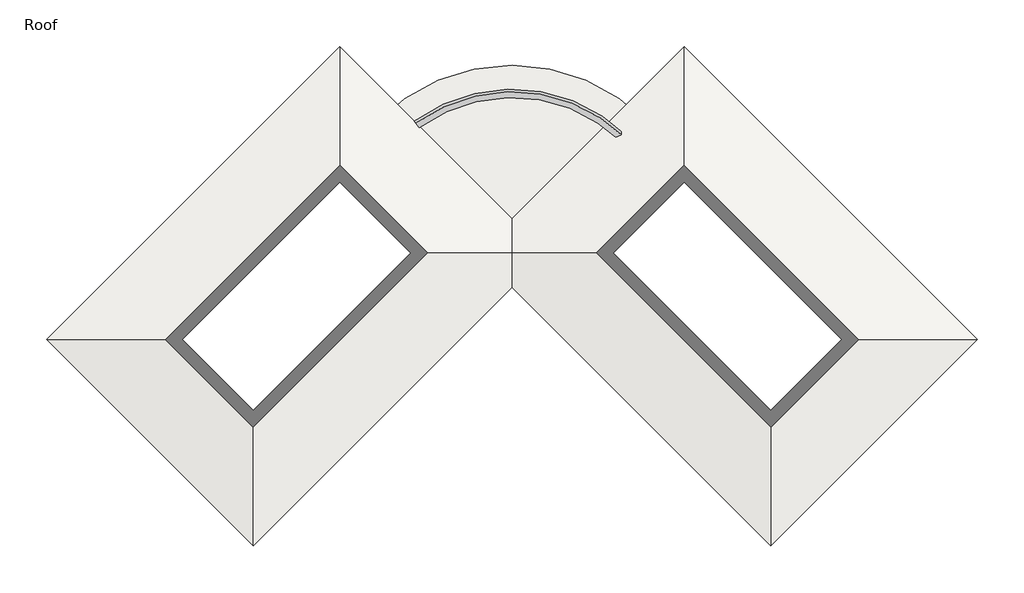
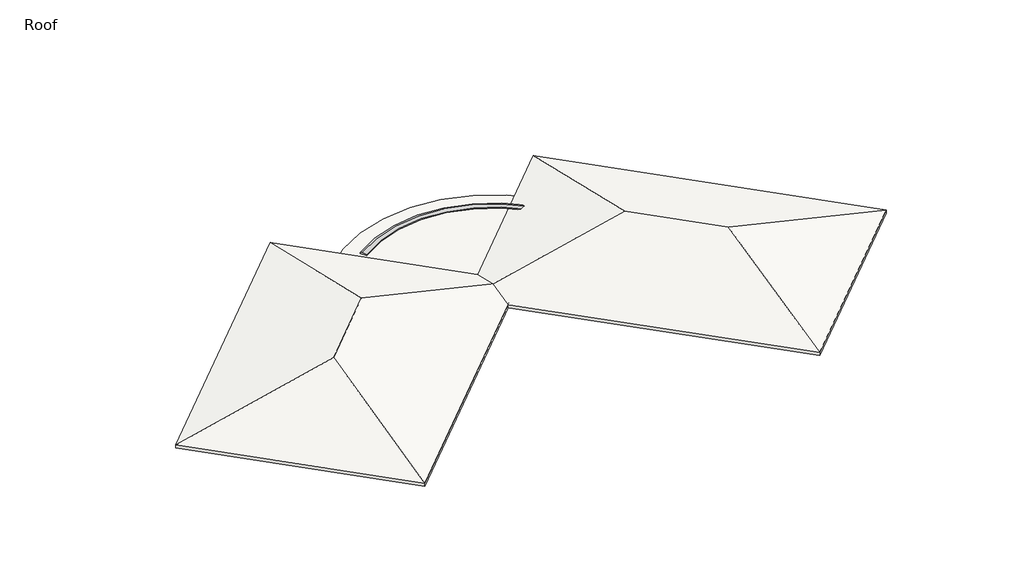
# One storey: 7 proxies, 3 roofs.
"""IFC4 building model written with IfcOpenShell, lengths in millimetres."""

import ifcopenshell
import ifcopenshell.guid

model = None  # the IFC model being written
_history = None  # IfcOwnerHistory: only IFC2X3 demands one
_inside = {}  # id of a spatial element -> (the spatial element, [elements in it])
_under = {}  # id of a project, library or spatial element -> (it, [spatial elements below it])
_declared = {}  # id of a project -> (the project, [libraries it declares])
_typed = {}  # id of a type object -> (the type object, [elements of that type])
_made_of = {}  # id of a material, layer set ... -> (it, [elements and type objects made of it])


def new_model(schema):
    """Start an empty IFC model of exactly this schema.

    Asked for "IFC4X3", IfcOpenShell would pick the latest addendum, in which some entities
    have other attributes; the version numbers below select the first issue.
    IFC2X3 requires an IfcOwnerHistory on every rooted entity: one is made here for all.
    """
    global model, _history
    if schema == "IFC4X3":
        model = ifcopenshell.file(schema_version=(4, 3, 0, 0))
    else:
        model = ifcopenshell.file(schema=schema)
    _inside.clear()
    _under.clear()
    _declared.clear()
    _typed.clear()
    _made_of.clear()
    _history = None
    if model.schema == "IFC2X3":
        org = make("IfcOrganization", Name="unknown")
        user = make(
            "IfcPersonAndOrganization",
            ThePerson=make("IfcPerson", FamilyName="unknown"),
            TheOrganization=org,
        )
        app = make(
            "IfcApplication",
            ApplicationDeveloper=org,
            Version="unknown",
            ApplicationFullName="unknown",
            ApplicationIdentifier="unknown",
        )
        _history = make(
            "IfcOwnerHistory",
            OwningUser=user,
            OwningApplication=app,
            ChangeAction="ADDED",
            CreationDate=0,
        )
    return model


def make(cls, **values):
    """One entity of the class cls with the attributes given. An attribute that is None is left unset."""
    return model.create_entity(
        cls, **{name: value for name, value in values.items() if value is not None}
    )


def rooted(cls, **values):
    """An entity with a GlobalId (a new one), such as an element, a storey or a relation."""
    return make(cls, GlobalId=ifcopenshell.guid.new(), OwnerHistory=_history, **values)


def si_unit(unit_type, name, prefix=None):
    """IfcSIUnit, for example si_unit("LENGTHUNIT", "METRE", prefix="MILLI")."""
    return make("IfcSIUnit", UnitType=unit_type, Prefix=prefix, Name=name)


def assignment(units):
    """IfcUnitAssignment: the units of a project."""
    return None if units is None else make("IfcUnitAssignment", Units=units)


def point(xyz):
    """IfcCartesianPoint."""
    return None if xyz is None else make("IfcCartesianPoint", Coordinates=xyz)


def direction(xyz):
    """IfcDirection."""
    return None if xyz is None else make("IfcDirection", DirectionRatios=xyz)


def frame(location, z_axis=None, x_axis=None):
    """IfcAxis2Placement3D, a coordinate frame: its origin and axes. An axis left out is left unset."""
    return make(
        "IfcAxis2Placement3D",
        Location=point(location),
        Axis=direction(z_axis),
        RefDirection=direction(x_axis),
    )


def frame_2d(location, x_axis=None):
    """IfcAxis2Placement2D, a coordinate frame in the plane: its origin and x axis."""
    return make(
        "IfcAxis2Placement2D", Location=point(location), RefDirection=direction(x_axis)
    )


def origin():
    """The frame at (0, 0, 0) with its axes left unset."""
    return frame((0.0, 0.0, 0.0))


def place(relative_to, where):
    """IfcLocalPlacement: puts the frame where relative to a parent placement (None: the world)."""
    return make(
        "IfcLocalPlacement", PlacementRelTo=relative_to, RelativePlacement=where
    )


def context(
    kind, dimensions, precision=None, world=None, true_north=None, identifier=None
):
    """IfcGeometricRepresentationContext, for example the 3D "Model" context."""
    return make(
        "IfcGeometricRepresentationContext",
        ContextIdentifier=identifier,
        ContextType=kind,
        CoordinateSpaceDimension=dimensions,
        Precision=precision,
        WorldCoordinateSystem=world,
        TrueNorth=true_north,
    )


def project(units=None, contexts=None):
    """IfcProject with its units and contexts."""
    return rooted(
        "IfcProject",
        Name="project",
        RepresentationContexts=contexts,
        UnitsInContext=assignment(units),
    )


def spatial(cls, under=None, at=None, **own):
    """A site, building, storey or space (cls), placed at a placement, below another one or the project."""
    s = rooted(cls, ObjectPlacement=at, **own)
    if under is not None:
        _under.setdefault(under.id(), (under, []))[1].append(s)
    return s


def polyline(points):
    """IfcPolyline through the points."""
    return make("IfcPolyline", Points=[point(p) for p in points])


def circle_curve(where, radius):
    """IfcCircle in the frame where."""
    return make("IfcCircle", Position=where, Radius=radius)


def trimmed(basis, trim1, trim2, sense, master):
    """IfcTrimmedCurve: the piece of a basis curve between two trims."""
    return make(
        "IfcTrimmedCurve",
        BasisCurve=basis,
        Trim1=trim1,
        Trim2=trim2,
        SenseAgreement=sense,
        MasterRepresentation=master,
    )


def segment(curve, same_sense, transition):
    """IfcCompositeCurveSegment."""
    return make(
        "IfcCompositeCurveSegment",
        Transition=transition,
        SameSense=same_sense,
        ParentCurve=curve,
    )


def composite_curve(segments, self_intersect=None):
    """IfcCompositeCurve: segments joined end to end."""
    return make("IfcCompositeCurve", Segments=segments, SelfIntersect=self_intersect)


def outline(outer, holes=None, kind="AREA"):
    """IfcArbitraryClosedProfileDef: a profile drawn as a closed curve; with holes, ...WithVoids."""
    if holes is None:
        return make("IfcArbitraryClosedProfileDef", ProfileType=kind, OuterCurve=outer)
    return make(
        "IfcArbitraryProfileDefWithVoids",
        ProfileType=kind,
        OuterCurve=outer,
        InnerCurves=holes,
    )


def extrude(swept, where, along, depth):
    """IfcExtrudedAreaSolid: the profile swept, set in the frame where, extruded along a direction by depth."""
    return make(
        "IfcExtrudedAreaSolid",
        SweptArea=swept,
        Position=where,
        ExtrudedDirection=direction(along),
        Depth=depth,
    )


def faces_of(points, faces, orient=None, outer=None):
    """IfcFace entities. A face is a list of loops; a loop is a list of indices into points, from 0.

    orient and outer hold one flag for each loop. By default every Orientation is true, the
    first loop of a face is its IfcFaceOuterBound and the others are IfcFaceBound.
    """
    made = []
    for i, loops in enumerate(faces):
        bounds = []
        for j, loop in enumerate(loops):
            is_outer = j == 0 if outer is None else outer[i][j]
            bounds.append(
                make(
                    "IfcFaceOuterBound" if is_outer else "IfcFaceBound",
                    Bound=make("IfcPolyLoop", Polygon=[points[k] for k in loop]),
                    Orientation=True if orient is None else orient[i][j],
                )
            )
        made.append(make("IfcFace", Bounds=bounds))
    return made


def faceted_brep(points, faces, orient=None, outer=None, voids=None):
    """IfcFacetedBrep: a solid bounded by flat faces; with voids (closed shells), ...WithVoids."""
    shared = [point(p) for p in points]
    hull = make("IfcClosedShell", CfsFaces=faces_of(shared, faces, orient, outer))
    if voids is None:
        return make("IfcFacetedBrep", Outer=hull)
    return make(
        "IfcFacetedBrepWithVoids",
        Outer=hull,
        Voids=[
            make(cls, CfsFaces=faces_of(shared, fs, o, b)) for cls, fs, o, b in voids
        ],
    )


def shape(context_of_items, identifier, shape_type, items):
    """IfcShapeRepresentation: the items that make up one representation, for example the "Body"."""
    return make(
        "IfcShapeRepresentation",
        ContextOfItems=context_of_items,
        RepresentationIdentifier=identifier,
        RepresentationType=shape_type,
        Items=items,
    )


def made_of(thing, what):
    """Note that an element or type object is made of a material, layer set ...; save() writes the relation."""
    if what is not None:
        _made_of.setdefault(what.id(), (what, []))[1].append(thing)
    return thing


def element(
    cls,
    number,
    at=None,
    inside=None,
    cuts=None,
    type_object=None,
    material=None,
    context=None,
    identifier="Body",
    shape_type=None,
    held_by="IfcProductDefinitionShape",
    body=None,
    shapes=None,
    **own,
):
    """One element of the class cls, such as IfcWall. Its Tag is "e" and its number.

    at: its placement. inside: the storey or other place that contains it. cuts: it is an
    opening in that element (IfcRelVoidsElement). A single representation is given by context,
    identifier, shape_type and body (its items); several are given by shapes. held_by: the class
    of the entity that holds the representations. save() writes the other relations.
    """
    e = rooted(cls, Tag="e%d" % number, ObjectPlacement=at, **own)
    if body is not None:
        shapes = [shape(context, identifier, shape_type, body)]
    if shapes is not None:
        e.Representation = make(held_by, Representations=shapes)
    if inside is not None:
        _inside.setdefault(inside.id(), (inside, []))[1].append(e)
    if cuts is not None:
        rooted(
            "IfcRelVoidsElement", RelatingBuildingElement=cuts, RelatedOpeningElement=e
        )
    if type_object is not None:
        _typed.setdefault(type_object.id(), (type_object, []))[1].append(e)
    return made_of(e, material)


def aggregate(whole, parts):
    """IfcRelAggregates: a whole, such as a stair, and the parts it consists of."""
    return rooted("IfcRelAggregates", RelatingObject=whole, RelatedObjects=parts)


def save(model, path):
    """Write the relations noted so far, then the file.

    IfcRelAggregates (storeys below a building ...), IfcRelContainedInSpatialStructure (elements
    in a storey), IfcRelDefinesByType, IfcRelAssociatesMaterial and IfcRelDeclares: one each for
    every whole, place, type object, material and project.
    """
    for whole, parts in _under.values():
        aggregate(whole, parts)
    for where, things in _inside.values():
        rooted(
            "IfcRelContainedInSpatialStructure",
            RelatedElements=things,
            RelatingStructure=where,
        )
    for kind, things in _typed.values():
        rooted("IfcRelDefinesByType", RelatedObjects=things, RelatingType=kind)
    for what, things in _made_of.values():
        rooted("IfcRelAssociatesMaterial", RelatedObjects=things, RelatingMaterial=what)
    for by, libraries in _declared.values():
        rooted("IfcRelDeclares", RelatingContext=by, RelatedDefinitions=libraries)
    model.write(path)


def plane_surface(at):
    """IfcPlane: the flat surface through the origin of the frame at, square to its z axis."""
    return make("IfcPlane", Position=at)


def cylinder_surface(at, radius):
    """IfcCylindricalSurface: all points at the distance radius from the z axis of the frame at."""
    return make("IfcCylindricalSurface", Position=at, Radius=radius)


def revolved_surface(curve, axis_point, axis_direction):
    """IfcSurfaceOfRevolution: the curve turned about the line through axis_point along axis_direction."""
    return make(
        "IfcSurfaceOfRevolution",
        SweptCurve=make("IfcArbitraryOpenProfileDef", ProfileType="CURVE", Curve=curve),
        AxisPosition=make("IfcAxis1Placement", Location=point(axis_point), Axis=direction(axis_direction)),
    )


def advanced_brep(points, edges, surfaces, faces):
    """IfcAdvancedBrep: a solid bounded by faces that lie on surfaces and meet in shared edges.

    An edge is (start, end): straight between two places in points (the first is 0);
    or (start, end, curve); or (start, end, curve, False) where it runs against its curve.
    A face is (place in surfaces, loops), or (place, loops, False) where it looks against
    its surface's normal. A loop lists edges by number (the first is 1), with a minus sign
    where the edge is run from its end to its start. The first loop is the outer one.
    """
    corners = [point(p) for p in points]
    vertices = [make("IfcVertexPoint", VertexGeometry=c) for c in corners]
    made = []
    for start, end, *more in edges:
        made.append(
            make(
                "IfcEdgeCurve",
                EdgeStart=vertices[start],
                EdgeEnd=vertices[end],
                EdgeGeometry=more[0] if more else make("IfcPolyline", Points=[corners[start], corners[end]]),
                SameSense=more[1] if len(more) > 1 else True,
            )
        )
    hull = []
    for where, loops, *sense in faces:
        bounds = []
        for j, loop in enumerate(loops):
            ring = [make("IfcOrientedEdge", EdgeElement=made[abs(k) - 1], Orientation=k > 0) for k in loop]
            bounds.append(
                make(
                    "IfcFaceOuterBound" if j == 0 else "IfcFaceBound",
                    Bound=make("IfcEdgeLoop", EdgeList=ring),
                    Orientation=True,
                )
            )
        hull.append(make("IfcAdvancedFace", Bounds=bounds, FaceSurface=surfaces[where], SameSense=sense[0] if sense else True))
    return make("IfcAdvancedBrep", Outer=make("IfcClosedShell", CfsFaces=hull))


model = new_model("IFC4")

# Units and contexts
model_context = context("Model", 3, world=origin())
ifc_project = project(units=[si_unit("LENGTHUNIT", "METRE", prefix="MILLI")], contexts=[model_context])

# Site, building, storey
site = spatial("IfcSite", under=ifc_project)
building = spatial("IfcBuilding", under=site)
storey = spatial("IfcBuildingStorey", under=building, Name="Roof", Elevation=4572.0)

# Proxies
placement = place(None, origin())
element("IfcBuildingElementProxy", 1, Name="Wall Sweeps", at=placement, inside=storey, context=model_context, shape_type="Brep", body=[
    faceted_brep([(4057.9485283, 9339.6949534, 4635.5), (3860.3828937, 9537.2605881, 4673.6), (3770.5803325, 9627.0631493, 4635.5), (3770.5803325, 9627.0631493, 4572.0), (4057.9485283, 9339.6949534, 4572.0), (5753.0175119, 11034.763937, 4635.5), (5753.0175119, 11034.763937, 4572.0), (5753.0175119, 11609.5003287, 4572.0), (5753.0175119, 11609.5003287, 4635.5), (5753.0175119, 11429.8952063, 4673.6)], [[[0, 1, 2, 3, 4]], [[5, 6, 7, 8, 9]], [[1, 0, 5, 9]], [[2, 1, 9, 8]], [[3, 2, 8, 7]], [[4, 3, 7, 6]], [[0, 4, 6, 5]]]),
])
element("IfcBuildingElementProxy", 2, Name="Wall Sweeps", at=placement, inside=storey, context=model_context, shape_type="Brep", body=[
    faceted_brep([(5753.0175119, 11034.763937, 4635.5), (5753.0175119, 11429.8952063, 4673.6), (5753.0175119, 11609.5003287, 4635.5), (5753.0175119, 11609.5003287, 4572.0), (5753.0175119, 11034.763937, 4572.0), (18145.770959, -1357.9895101, 4635.5), (18145.770959, -1357.9895101, 4572.0), (18720.5073507, -1357.9895101, 4572.0), (18720.5073507, -1357.9895101, 4635.5), (18540.9022283, -1357.9895101, 4673.6)], [[[0, 1, 2, 3, 4]], [[5, 6, 7, 8, 9]], [[1, 0, 5, 9]], [[2, 1, 9, 8]], [[3, 2, 8, 7]], [[4, 3, 7, 6]], [[0, 4, 6, 5]]]),
])
element("IfcBuildingElementProxy", 3, Name="Wall Sweeps", at=placement, inside=storey, context=model_context, shape_type="Brep", body=[
    faceted_brep([(18145.770959, -1357.9895101, 4635.5), (18540.9022283, -1357.9895101, 4673.6), (18720.5073507, -1357.9895101, 4635.5), (18720.5073507, -1357.9895101, 4572.0), (18145.770959, -1357.9895101, 4572.0), (9918.7338201, -9585.026649, 4635.5), (9918.7338201, -9585.026649, 4572.0), (9938.9393964, -9605.2322253, 4572.0), (10188.1415037, -9854.4343326, 4572.0), (10206.102016, -9872.3948449, 4572.0), (10206.102016, -9872.3948449, 4635.5), (10116.2994547, -9782.5922837, 4673.6)], [[[0, 1, 2, 3, 4]], [[5, 6, 7, 8, 9, 10, 11]], [[1, 0, 5, 11]], [[2, 1, 11, 10]], [[3, 2, 10, 9]], [[4, 3, 9, 8, 7, 6]], [[0, 4, 6, 5]]]),
])
element("IfcBuildingElementProxy", 4, Name="Wall Sweeps", at=placement, inside=storey, context=model_context, shape_type="Brep", body=[
    faceted_brep([(-15654.7905487, -9585.026649, 4635.5), (-15852.3561834, -9782.5922837, 4673.6), (-15942.1587446, -9872.3948449, 4635.5), (-15942.1587446, -9872.3948449, 4572.0), (-15924.1982323, -9854.4343326, 4572.0), (-15674.996125, -9605.2322253, 4572.0), (-15654.7905487, -9585.026649, 4572.0), (-23881.8276876, -1357.9895101, 4635.5), (-23881.8276876, -1357.9895101, 4572.0), (-24456.5640794, -1357.9895101, 4572.0), (-24456.5640794, -1357.9895101, 4635.5), (-24276.9589569, -1357.9895101, 4673.6)], [[[0, 1, 2, 3, 4, 5, 6]], [[7, 8, 9, 10, 11]], [[1, 0, 7, 11]], [[2, 1, 11, 10]], [[3, 2, 10, 9]], [[6, 5, 4, 3, 9, 8]], [[0, 6, 8, 7]]]),
])
element("IfcBuildingElementProxy", 5, Name="Wall Sweeps", at=placement, inside=storey, context=model_context, shape_type="Brep", body=[
    faceted_brep([(-23881.8276876, -1357.9895101, 4635.5), (-24276.9589569, -1357.9895101, 4673.6), (-24456.5640794, -1357.9895101, 4635.5), (-24456.5640794, -1357.9895101, 4572.0), (-23881.8276876, -1357.9895101, 4572.0), (-11489.0742405, 11034.763937, 4635.5), (-11489.0742405, 11034.763937, 4572.0), (-11489.0742405, 11609.5003287, 4572.0), (-11489.0742405, 11609.5003287, 4635.5), (-11489.0742405, 11429.8952063, 4673.6)], [[[0, 1, 2, 3, 4]], [[5, 6, 7, 8, 9]], [[1, 0, 5, 9]], [[2, 1, 9, 8]], [[3, 2, 8, 7]], [[4, 3, 7, 6]], [[0, 4, 6, 5]]]),
])
element("IfcBuildingElementProxy", 6, Name="Wall Sweeps", at=placement, inside=storey, context=model_context, shape_type="Brep", body=[
    faceted_brep([(-11489.0742405, 11034.763937, 4635.5), (-11489.0742405, 11429.8952063, 4673.6), (-11489.0742405, 11609.5003287, 4635.5), (-11489.0742405, 11609.5003287, 4572.0), (-11489.0742405, 11034.763937, 4572.0), (-8931.8939077, 8477.5836041, 4635.5), (-8931.8939077, 8477.5836041, 4572.0), (-8644.5257118, 8764.9518, 4572.0), (-8644.5257118, 8764.9518, 4635.5), (-8734.328273, 8675.1492388, 4673.6)], [[[0, 1, 2, 3, 4]], [[5, 6, 7, 8, 9]], [[1, 0, 5, 9]], [[2, 1, 9, 8]], [[3, 2, 8, 7]], [[4, 3, 7, 6]], [[0, 4, 6, 5]]]),
])
element("IfcBuildingElementProxy", 7, Name="Wall Sweeps", at=placement, inside=storey, context=model_context, shape_type="AdvancedBrep", body=[
    advanced_brep(
    [(-7507.26102, 9233.8641208, 4635.5), (-7672.4116971, 9459.2296325, 4673.6), (-7747.4801867, 9561.6685015, 4635.5), (-7747.4801867, 9561.6685015, 4572.0), (-7507.26102, 9233.8641208, 4572.0), (2658.1675575, 8476.4427105, 4635.5), (2658.1675575, 8476.4427105, 4572.0), (2944.3136246, 8765.0278596, 4572.0), (2944.3136246, 8765.0278596, 4635.5), (2854.8929786, 8674.8450005, 4673.6)],
    [
        (0, 1),
        (1, 2),
        (2, 3),
        (3, 4),
        (4, 0),
        (5, 6),
        (6, 7),
        (7, 8),
        (8, 9),
        (9, 5),
        (9, 1, circle_curve(frame((-2868.0283643, 2903.1420194, 4673.6), z_axis=(0.0, 0.0, 1.0), x_axis=(-0.591090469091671, 0.8066052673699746, 0.0)), 8128.0)),
        (0, 5, circle_curve(frame((-2868.0283643, 2903.1420194, 4635.5), z_axis=(0.0, 0.0, -1.0), x_axis=(-0.591090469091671, 0.8066052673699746, 0.0)), 7848.6)),
        (8, 2, circle_curve(frame((-2868.0283643, 2903.1420194, 4635.5), z_axis=(0.0, 0.0, 1.0), x_axis=(-0.591090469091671, 0.8066052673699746, 0.0)), 8255.0)),
        (7, 3, circle_curve(frame((-2868.0283643, 2903.1420194, 4572.0), z_axis=(0.0, 0.0, 1.0), x_axis=(-0.591090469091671, 0.8066052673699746, 0.0)), 8255.0)),
        (6, 4, circle_curve(frame((-2868.0283643, 2903.1420194, 4572.0), z_axis=(0.0, 0.0, 1.0), x_axis=(-0.591090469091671, 0.8066052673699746, 0.0)), 7848.6)),
    ],
    [
        plane_surface(frame((-2868.0283643, 2903.1420194, 4572.0), z_axis=(-0.8066052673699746, -0.591090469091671, 0.0), x_axis=(-0.591090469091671, 0.8066052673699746, 0.0))),
        plane_surface(frame((-2868.0283643, 2903.1420194, 4572.0), z_axis=(0.7101012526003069, -0.7040995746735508, 0.0), x_axis=(0.7040995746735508, 0.7101012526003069, 0.0))),
        revolved_surface(polyline([(-7507.26102, 9233.8641208, 4635.5), (-7672.4116971, 9459.2296325, 4673.6)]), (-2868.0283643, 2903.1420194, 4572.0), (0.0, 0.0, -1.0)),
        revolved_surface(polyline([(-7672.4116971, 9459.2296325, 4673.6), (-7747.4801867, 9561.6685015, 4635.5)]), (-2868.0283643, 2903.1420194, 4572.0), (0.0, 0.0, -1.0)),
        cylinder_surface(frame((-2868.0283643, 2903.1420194, 4572.0), z_axis=(0.0, 0.0, -1.0), x_axis=(-0.591090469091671, 0.8066052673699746, 0.0)), 8255.0),
        plane_surface(frame((-2868.0283643, 2903.1420194, 4572.0), z_axis=(0.0, 0.0, -1.0000000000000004), x_axis=(-0.5910904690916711, 0.8066052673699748, 0.0))),
        revolved_surface(polyline([(-7507.261020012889, 9233.864120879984, 4572.0), (-7507.261020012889, 9233.864120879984, 4635.5)]), (-2868.0283643, 2903.1420194, 4572.0), (0.0, 0.0, -1.0)),
    ],
    [
        (0, [[1, 2, 3, 4, 5]]),
        (1, [[6, 7, 8, 9, 10]]),
        (2, [[11, -1, 12, -10]]),
        (3, [[13, -2, -11, -9]]),
        (4, [[14, -3, -13, -8]]),
        (5, [[15, -4, -14, -7]]),
        (6, [[-12, -5, -15, -6]]),
    ],
),
])

# Roofs
element("IfcRoof", 8, ObjectType="Insulation on Metal Deck - EPDM", at=placement, inside=storey, context=model_context, shape_type="Brep", body=[
    faceted_brep([(-11489.0742405, 2952.533428, 6604.0), (-11489.0742405, 13297.7884795, 4165.6), (-1143.8191891, 2952.533428, 4165.6), (-26144.8522301, -1357.9895101, 4165.6), (-15799.5971786, -1357.9895101, 6604.0), (-15799.5971786, -11703.2445616, 4165.6), (-11489.0742405, 13297.7884795, 4373.0981191), (-11489.0742405, 2952.533428, 6811.4981191), (-1143.8191891, 2952.533428, 4373.0981191), (-26144.8522301, -1357.9895101, 4373.0981191), (-15799.5971786, -11703.2445616, 4373.0981191), (-15799.5971786, -1357.9895101, 6811.4981191)], [[[0, 1, 2]], [[3, 4, 5]], [[1, 0, 4, 3]], [[5, 4, 0, 2]], [[6, 7, 8]], [[9, 10, 11]], [[6, 9, 11, 7]], [[10, 8, 7, 11]], [[3, 9, 6, 1]], [[5, 10, 9, 3]], [[2, 8, 10, 5]], [[1, 6, 8, 2]]]),
])
element("IfcRoof", 9, ObjectType="Insulation on Metal Deck - EPDM", at=placement, inside=storey, context=model_context, shape_type="SweptSolid", body=[
    extrude(outline(composite_curve([segment(trimmed(circle_curve(frame_2d((-2868.0283643, 2903.1420194)), 9448.8), [point((-9665.5266036, 9466.2083094))], [point((3929.469875, 9466.2083094))], False, "CARTESIAN"), True, "CONTINUOUS"), segment(polyline([(3929.469875, 9466.2083094), (-2868.0283643, 2668.7100701), (-9665.5266036, 9466.2083094)]), True, "CONTINUOUS")], self_intersect=False)), frame((0.0, 0.0, 4165.6), z_axis=(0.0, 0.0, 1.0), x_axis=(1.0, 0.0, 0.0)), (0.0, 0.0, 1.0), 196.85),
])
element("IfcRoof", 10, ObjectType="Insulation on Metal Deck - EPDM", at=placement, inside=storey, context=model_context, shape_type="Brep", body=[
    faceted_brep([(5753.0175119, 2952.533428, 6604.0), (5753.0175119, 13297.7884795, 4165.6), (20408.7955015, -1357.9895101, 4165.6), (10063.54045, -1357.9895101, 6604.0), (-4592.2375396, 2952.533428, 4165.6), (10063.54045, -11703.2445616, 4165.6), (5753.0175119, 13297.7884795, 4373.0981191), (5753.0175119, 2952.533428, 6811.4981191), (10063.54045, -1357.9895101, 6811.4981191), (20408.7955015, -1357.9895101, 4373.0981191), (-4592.2375396, 2952.533428, 4373.0981191), (10063.54045, -11703.2445616, 4373.0981191)], [[[0, 1, 2, 3]], [[1, 0, 4]], [[5, 3, 2]], [[4, 0, 3, 5]], [[6, 7, 8, 9]], [[6, 10, 7]], [[11, 9, 8]], [[10, 11, 8, 7]], [[4, 10, 6, 1]], [[5, 11, 10, 4]], [[2, 9, 11, 5]], [[1, 6, 9, 2]]]),
])

save(model, "model.ifc")
